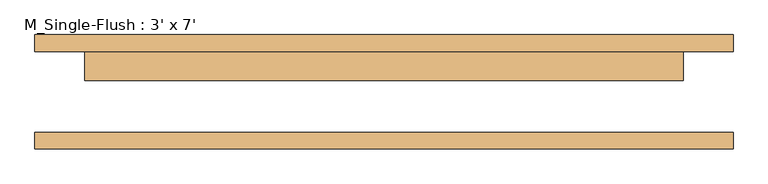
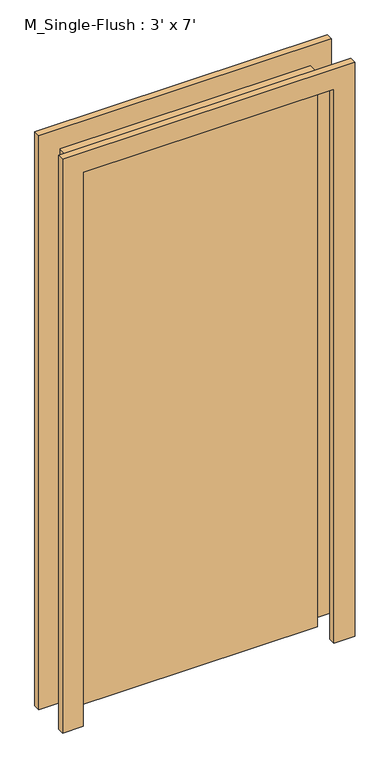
"""IFC4 building model written with IfcOpenShell, lengths in millimetres: door geometry, M_Single-Flush : 3' x 7'."""

from ifc_helpers import new_model, si_unit, frame, origin, origin_with_axes, place, context, project, spatial, polyline, outline, extrude, source, transform, mapped, element, save


def m_single_flush_3_x_7_d4803db9(model_context):
    return source(origin(), model_context, "Body", "SweptSolid", [
        extrude(outline(polyline([(2209.8, -533.4), (0.0, -533.4), (0.0, -457.2), (2133.6, -457.2), (2133.6, 457.2), (0.0, 457.2), (0.0, 533.4), (2209.8, 533.4), (2209.8, -533.4)])), frame((0.0, 61.9125, 0.0), z_axis=(0.0, 1.0, 0.0), x_axis=(0.0, 0.0, 1.0)), (0.0, 0.0, 1.0), 25.4),
        extrude(outline(polyline([(2209.8, 533.4), (2209.8, -533.4), (0.0, -533.4), (0.0, -457.2), (2133.6, -457.2), (2133.6, 457.2), (0.0, 457.2), (0.0, 533.4), (2209.8, 533.4)])), frame((0.0, -87.3125, 0.0), z_axis=(0.0, 1.0, 0.0), x_axis=(0.0, 0.0, 1.0)), (0.0, 0.0, 1.0), 25.4),
        extrude(outline(polyline([(457.2, 17.4625), (-457.2, 17.4625), (-457.2, 61.9125), (457.2, 61.9125), (457.2, 17.4625)])), origin_with_axes(), (0.0, 0.0, 1.0), 2133.6),
    ])


if __name__ == "__main__":
    model = new_model("IFC4")
    model_context = context("Model", 3, world=origin())
    ifc_project = project(units=[si_unit("LENGTHUNIT", "METRE", prefix="MILLI")], contexts=[model_context])
    site = spatial("IfcSite", under=ifc_project)
    building = spatial("IfcBuilding", under=site)
    placement = place(None, origin())
    m_single_flush_3_x_7_shape = m_single_flush_3_x_7_d4803db9(model_context)
    element("IfcDoor", 1, ObjectType="M_Single-Flush : 3' x 7'", at=placement, inside=building, context=model_context, shape_type="MappedRepresentation", body=[
        mapped(m_single_flush_3_x_7_shape, transform((0.0, 0.0, 0.0), x_axis=(1.0, 0.0, 0.0), y_axis=(0.0, 1.0, 0.0), z_axis=(0.0, 0.0, 1.0))),
    ])
    save(model, "model.ifc")
